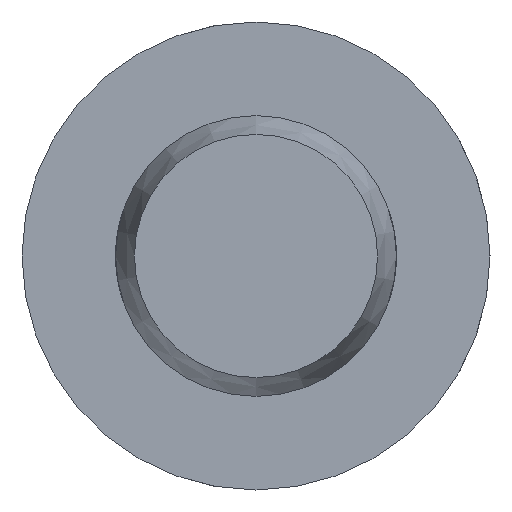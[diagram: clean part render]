
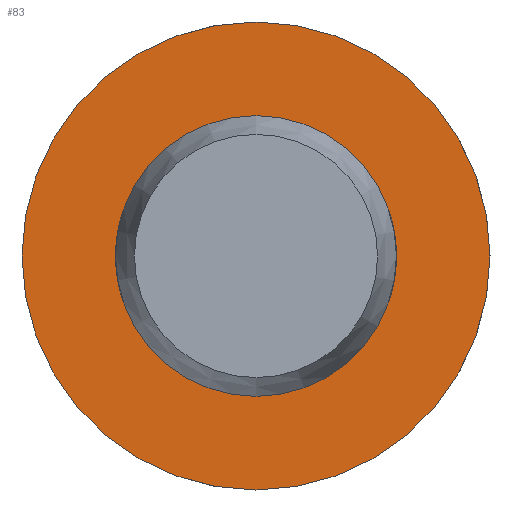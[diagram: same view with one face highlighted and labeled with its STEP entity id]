
A CAD part, left-side view. The second image highlights one B-rep face of the part: STEP entity #83.
In plain terms, the highlighted planar face has unit normal (-1, 0, 0).
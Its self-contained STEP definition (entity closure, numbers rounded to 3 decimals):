
#83 = ADVANCED_FACE( '', ( #129, #130 ), #131, .F. );
#129 = FACE_OUTER_BOUND( '', #208, .T. );
#130 = FACE_BOUND( '', #209, .T. );
#131 = PLANE( '', #210 );
#208 = EDGE_LOOP( '', ( #325 ) );
#209 = EDGE_LOOP( '', ( #326 ) );
#210 = AXIS2_PLACEMENT_3D( '', #327, #328, #329 );
#325 = ORIENTED_EDGE( '', *, *, #493, .F. );
#326 = ORIENTED_EDGE( '', *, *, #483, .T. );
#327 = CARTESIAN_POINT( '', ( 57., 3., 0. ) );
#328 = DIRECTION( '', ( 1., 0., 0. ) );
#329 = DIRECTION( '', ( 0., 0., -1. ) );
#483 = EDGE_CURVE( '', #554, #554, #555, .T. );
#493 = EDGE_CURVE( '', #572, #572, #573, .T. );
#554 = VERTEX_POINT( '', #741 );
#555 = CIRCLE( '', #742, 3. );
#572 = VERTEX_POINT( '', #850 );
#573 = CIRCLE( '', #851, 5. );
#741 = CARTESIAN_POINT( '', ( 57., 0., -3. ) );
#742 = AXIS2_PLACEMENT_3D( '', #914, #915, #916 );
#850 = CARTESIAN_POINT( '', ( 57., 0., -5. ) );
#851 = AXIS2_PLACEMENT_3D( '', #935, #936, #937 );
#914 = CARTESIAN_POINT( '', ( 57., 0., 0. ) );
#915 = DIRECTION( '', ( 1., 0., 0. ) );
#916 = DIRECTION( '', ( 0., 0., -1. ) );
#935 = CARTESIAN_POINT( '', ( 57., 0., 0. ) );
#936 = DIRECTION( '', ( 1., 0., 0. ) );
#937 = DIRECTION( '', ( 0., 0., -1. ) );
